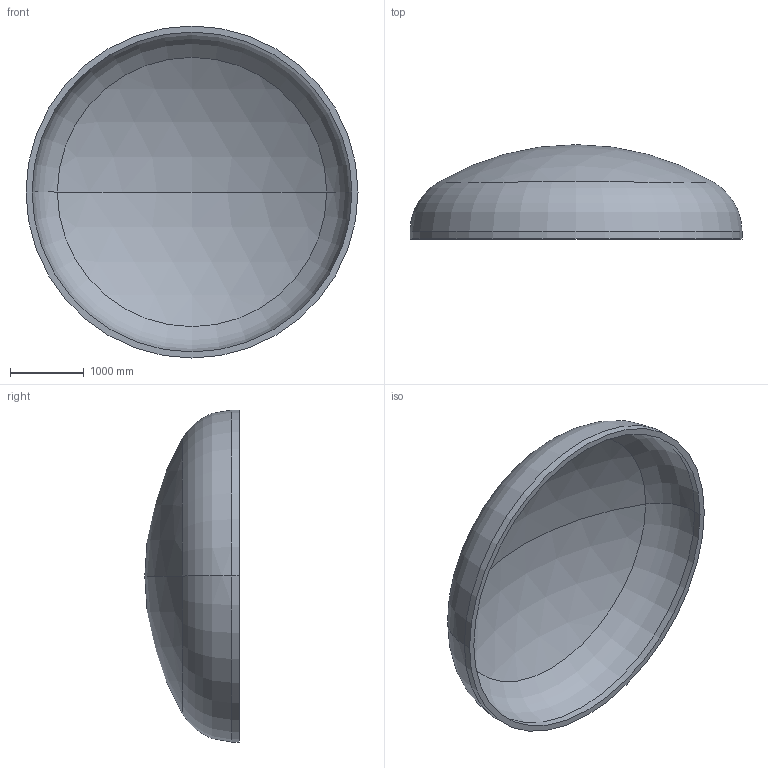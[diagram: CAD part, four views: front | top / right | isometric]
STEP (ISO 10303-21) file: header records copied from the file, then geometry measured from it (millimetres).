
FILE_DESCRIPTION (( 'STEP AP203' ), '1' );
FILE_NAME ('DIN 28013 Korbbogenform_-_Boden DIN 28013 - 4500 x 100 - I - s=82.step', '2016-07-01T23:44:17', ( '' ), ( '' ), 'SwSTEP 2.0', 'SolidWorks 2013', '' );
FILE_SCHEMA (( 'CONFIG_CONTROL_DESIGN' ));
Length unit declared in the file: millimetre
Products named in the file (1): DIN 28013 Korbbogenform_-_Boden DIN 28013 - 4500 x 100 - I - s=82
Bounding box: 4500 x 1278.14 x 4500 mm (x, y, z)
Volume: 1878188462.8 mm3; surface area: 46961664.5 mm2
Topology: 1 solids, 1 shells, 13 faces, 24 edges, 14 vertices
Faces by surface type: torus 4, cylinder 4, sphere 4, plane 1
Entity records: 407 total; most frequent: DIRECTION 72, CARTESIAN_POINT 52, ORIENTED_EDGE 48, AXIS2_PLACEMENT_3D 34, EDGE_CURVE 24, CIRCLE 20, EDGE_LOOP 14, VERTEX_POINT 14
